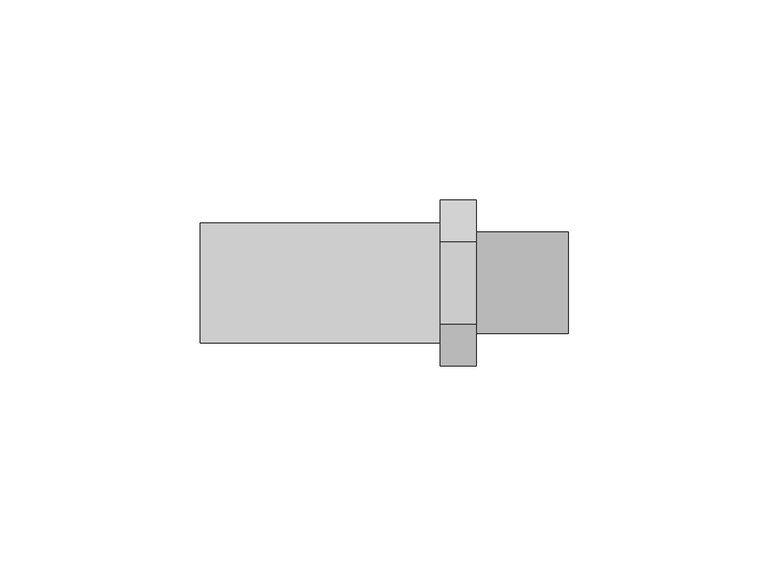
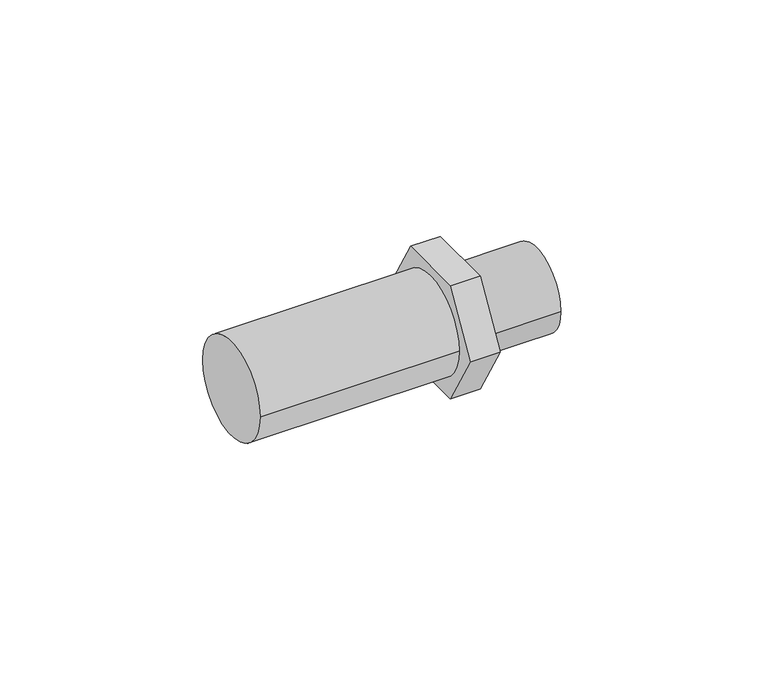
"""IFC4 building model written with IfcOpenShell, lengths in millimetres: pipe fitting geometry, 01011113 : Adaptadores para tubo."""

from ifc_helpers import new_model, si_unit, point, frame, origin, origin_2d, place, context, project, spatial, circle_curve, trimmed, segment, composite_curve, outline, extrude, source, transform, mapped, element, save
from ifc_brep_helpers import plane_surface, cylinder_surface, advanced_brep


def pipe_fitting_2bcd3540(model_context):
    return source(origin(), model_context, "Body", "SolidModel", [
        extrude(outline(composite_curve([segment(trimmed(circle_curve(origin_2d(), 15.0), [point((15.0, 0.0))], [point((-15.0, 0.0))], False, "CARTESIAN"), True, "CONTINUOUS"), segment(trimmed(circle_curve(origin_2d(), 15.0), [point((-15.0, 0.0))], [point((15.0, 0.0))], False, "CARTESIAN"), True, "CONTINUOUS")], self_intersect=False)), frame((-46.0, 0.0, 0.0), z_axis=(1.0, 0.0, 0.0), x_axis=(0.0, 1.0, 0.0)), (0.0, 0.0, 1.0), 60.0),
        advanced_brep(
        [(23.0, -10.3923048, 18.0), (23.0, -20.7846097, 0.0), (23.0, -10.3923048, -18.0), (23.0, 10.3923048, -18.0), (23.0, 20.7846097, 0.0), (23.0, 10.3923048, 18.0), (23.0, -12.7, 0.0), (23.0, 12.7, 0.0), (14.0, -10.3923048, 18.0), (14.0, 10.3923048, 18.0), (14.0, 20.7846097, 0.0), (14.0, 10.3923048, -18.0), (14.0, -10.3923048, -18.0), (14.0, -20.7846097, 0.0), (46.0, -12.7, 0.0), (46.0, 12.7, 0.0)],
        [
            (0, 1),
            (1, 2),
            (2, 3),
            (3, 4),
            (4, 5),
            (5, 0),
            (6, 7, circle_curve(frame((23.0, 0.0, 0.0), z_axis=(-1.0, 0.0, 0.0), x_axis=(0.0, 1.0, 0.0)), 12.7)),
            (7, 6, circle_curve(frame((23.0, 0.0, 0.0), z_axis=(-1.0, 0.0, 0.0), x_axis=(0.0, 1.0, 0.0)), 12.7)),
            (8, 9),
            (9, 10),
            (10, 11),
            (11, 12),
            (12, 13),
            (13, 8),
            (0, 8),
            (13, 1),
            (12, 2),
            (11, 3),
            (10, 4),
            (9, 5),
            (14, 15, circle_curve(frame((46.0, 0.0, 0.0), z_axis=(1.0, 0.0, 0.0), x_axis=(0.0, 1.0, 0.0)), 12.7)),
            (15, 14, circle_curve(frame((46.0, 0.0, 0.0), z_axis=(1.0, 0.0, 0.0), x_axis=(0.0, 1.0, 0.0)), 12.7)),
            (15, 7),
            (6, 14),
        ],
        [
            plane_surface(frame((23.0, -10.3923048, 18.0), z_axis=(1.0, 0.0, 0.0), x_axis=(0.0, -0.5000000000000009, -0.8660254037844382))),
            plane_surface(frame((14.0, -10.3923048, 18.0), z_axis=(-1.0, 0.0, 0.0), x_axis=(0.0, 0.5000000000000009, 0.8660254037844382))),
            plane_surface(frame((23.0, -10.3923048, 18.0), z_axis=(0.0, -0.8660254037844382, 0.5000000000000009), x_axis=(-1.0, 0.0, 0.0))),
            plane_surface(frame((23.0, -20.7846097, 0.0), z_axis=(0.0, -0.8660254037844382, -0.500000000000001), x_axis=(-1.0, 0.0, 0.0))),
            plane_surface(frame((23.0, -10.3923048, -18.0), z_axis=(0.0, 0.0, -1.0), x_axis=(-1.0, 0.0, 0.0))),
            plane_surface(frame((23.0, 10.3923048, -18.0), z_axis=(0.0, 0.8660254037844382, -0.5000000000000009), x_axis=(-1.0, 0.0, 0.0))),
            plane_surface(frame((23.0, 20.7846097, 0.0), z_axis=(0.0, 0.8660254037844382, 0.500000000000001), x_axis=(-1.0, 0.0, 0.0))),
            plane_surface(frame((23.0, 10.3923048, 18.0), z_axis=(0.0, 0.0, 1.0), x_axis=(-1.0, 0.0, 0.0))),
            plane_surface(frame((46.0, 0.0, 0.0), z_axis=(1.0, 0.0, 0.0), x_axis=(0.0, 0.0, 1.0))),
            cylinder_surface(frame((23.0, 0.0, 0.0), z_axis=(-1.0, 0.0, 0.0), x_axis=(0.0, 1.0, 0.0)), 12.7),
        ],
        [
            (0, [[1, 2, 3, 4, 5, 6], [7, 8]]),
            (1, [[9, 10, 11, 12, 13, 14]]),
            (2, [[-1, 15, -14, 16]]),
            (3, [[-2, -16, -13, 17]]),
            (4, [[-3, -17, -12, 18]]),
            (5, [[-4, -18, -11, 19]]),
            (6, [[-5, -19, -10, 20]]),
            (7, [[-6, -20, -9, -15]]),
            (8, [[21, 22]]),
            (9, [[-22, 23, -7, 24]]),
            (9, [[-21, -24, -8, -23]]),
        ],
    ),
    ])


if __name__ == "__main__":
    model = new_model("IFC4")
    model_context = context("Model", 3, world=origin())
    ifc_project = project(units=[si_unit("LENGTHUNIT", "METRE", prefix="MILLI")], contexts=[model_context])
    site = spatial("IfcSite", under=ifc_project)
    building = spatial("IfcBuilding", under=site)
    placement = place(None, origin())
    pipe_fitting_shape = pipe_fitting_2bcd3540(model_context)
    element("IfcPipeFitting", 1, ObjectType="01011113 : Adaptadores para tubo", at=placement, inside=building, context=model_context, shape_type="MappedRepresentation", body=[
        mapped(pipe_fitting_shape, transform((0.0, 0.0, 0.0), x_axis=(1.0, 0.0, 0.0), y_axis=(0.0, 1.0, 0.0), z_axis=(0.0, 0.0, 1.0))),
    ])
    save(model, "model.ifc")
